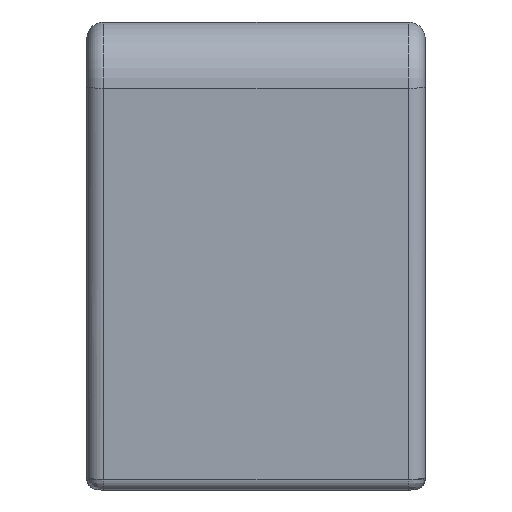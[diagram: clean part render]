
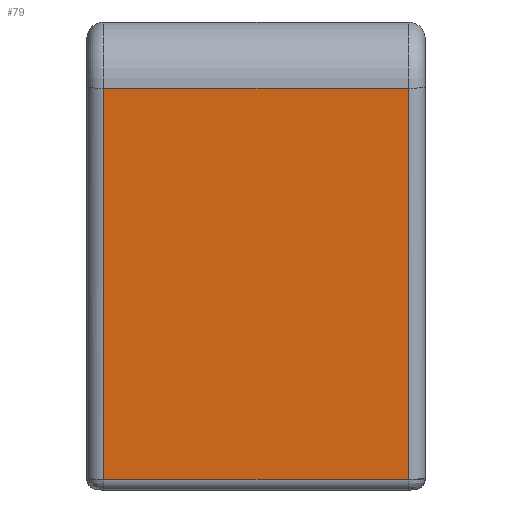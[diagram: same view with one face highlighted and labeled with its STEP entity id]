
A CAD part, left-side view. The second image highlights one B-rep face of the part: STEP entity #79.
In plain terms, the highlighted planar face has unit normal (-0.998, 0, -0.067).
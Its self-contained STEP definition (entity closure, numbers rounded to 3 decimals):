
#79 = ADVANCED_FACE ( 'NONE', ( #3464 ), #4709, .T. ) ;
#441 = AXIS2_PLACEMENT_3D ( 'NONE', #4708, #4707, #4706 ) ;
#680 = EDGE_CURVE ( 'NONE', #4290, #4332, #4251, .T. ) ;
#684 = EDGE_CURVE ( 'NONE', #4290, #4438, #4264, .T. ) ;
#686 = EDGE_CURVE ( 'NONE', #4394, #4332, #4273, .T. ) ;
#687 = EDGE_CURVE ( 'NONE', #4438, #4394, #4277, .T. ) ;
#977 = CARTESIAN_POINT ( 'NONE',  ( -217.388, 15., 28.632 ) ) ;
#978 = DIRECTION ( 'NONE',  ( 0., -1., 0. ) ) ;
#988 = CARTESIAN_POINT ( 'NONE',  ( -215., 13.5, -7. ) ) ;
#989 = DIRECTION ( 'NONE',  ( 0.067, 0., -0.998 ) ) ;
#992 = CARTESIAN_POINT ( 'NONE',  ( -217.388, -13.5, 28.632 ) ) ;
#993 = DIRECTION ( 'NONE',  ( -0.067, 0., 0.998 ) ) ;
#994 = CARTESIAN_POINT ( 'NONE',  ( -215.063, 15., -6.067 ) ) ;
#995 = DIRECTION ( 'NONE',  ( 0., -1., 0. ) ) ;
#1256 = CARTESIAN_POINT ( 'NONE',  ( -217.388, 13.5, 28.632 ) ) ;
#1273 = CARTESIAN_POINT ( 'NONE',  ( -217.388, -13.5, 28.632 ) ) ;
#1306 = CARTESIAN_POINT ( 'NONE',  ( -215.063, -13.5, -6.067 ) ) ;
#1332 = CARTESIAN_POINT ( 'NONE',  ( -215.063, 13.5, -6.067 ) ) ;
#2787 = EDGE_LOOP ( 'NONE', ( #2912, #2910, #2908, #2906 ) ) ;
#2906 = ORIENTED_EDGE ( 'NONE', *, *, #680, .F. ) ;
#2908 = ORIENTED_EDGE ( 'NONE', *, *, #686, .T. ) ;
#2910 = ORIENTED_EDGE ( 'NONE', *, *, #687, .T. ) ;
#2912 = ORIENTED_EDGE ( 'NONE', *, *, #684, .T. ) ;
#3464 = FACE_OUTER_BOUND ( 'NONE', #2787, .T. ) ;
#4251 = LINE ( 'NONE', #977, #4253 ) ;
#4253 = VECTOR ( 'NONE', #978, 1000. ) ;
#4264 = LINE ( 'NONE', #988, #4266 ) ;
#4266 = VECTOR ( 'NONE', #989, 1000. ) ;
#4273 = LINE ( 'NONE', #992, #4275 ) ;
#4275 = VECTOR ( 'NONE', #993, 1000. ) ;
#4277 = LINE ( 'NONE', #994, #4279 ) ;
#4279 = VECTOR ( 'NONE', #995, 1000. ) ;
#4290 = VERTEX_POINT ( 'NONE', #1256 ) ;
#4332 = VERTEX_POINT ( 'NONE', #1273 ) ;
#4394 = VERTEX_POINT ( 'NONE', #1306 ) ;
#4438 = VERTEX_POINT ( 'NONE', #1332 ) ;
#4706 = DIRECTION ( 'NONE',  ( -0.067, 0., 0.998 ) ) ;
#4707 = DIRECTION ( 'NONE',  ( -0.998, 0., -0.067 ) ) ;
#4708 = CARTESIAN_POINT ( 'NONE',  ( -215., 15., -7. ) ) ;
#4709 = PLANE ( 'NONE',  #441 ) ;
